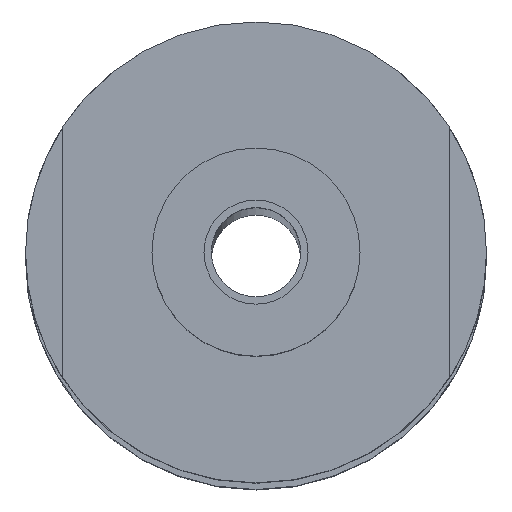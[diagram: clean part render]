
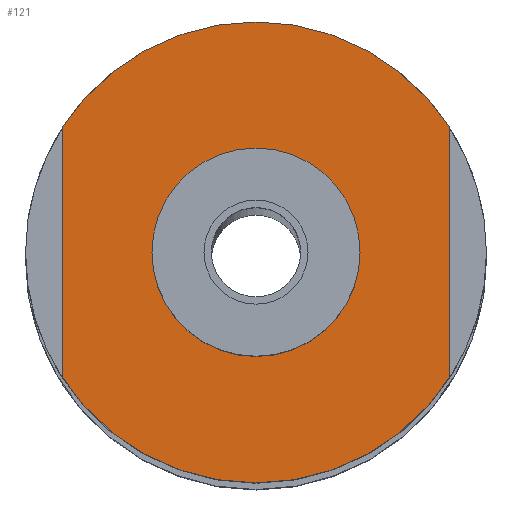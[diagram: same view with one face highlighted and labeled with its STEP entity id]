
A CAD part, top view. The second image highlights one B-rep face of the part: STEP entity #121.
In plain terms, the highlighted planar face has unit normal (0, 0, 1).
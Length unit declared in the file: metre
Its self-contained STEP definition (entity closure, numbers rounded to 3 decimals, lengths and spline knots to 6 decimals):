
#121=ADVANCED_FACE('37:1511',(#238,#239),#240,.T.);
#238=FACE_OUTER_BOUND('',#364,.T.);
#239=FACE_BOUND('',#365,.T.);
#240=PLANE('',#366);
#364=EDGE_LOOP('',(#596,#597,#598,#599,#600,#601));
#365=EDGE_LOOP('',(#602,#603));
#366=AXIS2_PLACEMENT_3D('',#604,#605,#606);
#596=ORIENTED_EDGE('',*,*,#761,.F.);
#597=ORIENTED_EDGE('',*,*,#760,.F.);
#598=ORIENTED_EDGE('',*,*,#756,.F.);
#599=ORIENTED_EDGE('',*,*,#688,.F.);
#600=ORIENTED_EDGE('',*,*,#687,.F.);
#601=ORIENTED_EDGE('',*,*,#751,.T.);
#602=ORIENTED_EDGE('',*,*,#749,.F.);
#603=ORIENTED_EDGE('',*,*,#693,.F.);
#604=CARTESIAN_POINT('',(0.0,0.0,2.635));
#605=DIRECTION('',(0.0,0.0,1.0));
#606=DIRECTION('',(1.0,0.0,0.0));
#687=EDGE_CURVE('37:1561',#812,#814,#815,.F.);
#688=EDGE_CURVE('37:1552',#814,#816,#817,.F.);
#693=EDGE_CURVE('',#822,#825,#826,.T.);
#749=EDGE_CURVE('37:1539',#825,#822,#907,.T.);
#751=EDGE_CURVE('37:3142',#812,#909,#910,.T.);
#756=EDGE_CURVE('37:2641',#816,#917,#918,.F.);
#760=EDGE_CURVE('37:1558',#917,#922,#923,.F.);
#761=EDGE_CURVE('37:1549',#922,#909,#924,.F.);
#812=VERTEX_POINT('',#1001);
#814=VERTEX_POINT('',#1004);
#815=CIRCLE('',#1005,0.0155);
#816=VERTEX_POINT('',#1006);
#817=CIRCLE('',#1007,0.0155);
#822=VERTEX_POINT('',#1013);
#825=VERTEX_POINT('',#1017);
#826=CIRCLE('',#1018,0.007);
#907=CIRCLE('',#1116,0.007);
#909=VERTEX_POINT('',#1118);
#910=LINE('',#1119,#1120);
#917=VERTEX_POINT('',#1130);
#918=LINE('',#1131,#1132);
#922=VERTEX_POINT('',#1137);
#923=CIRCLE('',#1138,0.0155);
#924=CIRCLE('',#1139,0.0155);
#1001=CARTESIAN_POINT('',(-0.013092,0.008536,2.635));
#1004=CARTESIAN_POINT('',(-0.000092,0.015595,2.635));
#1005=AXIS2_PLACEMENT_3D('',#1221,#1222,#1223);
#1006=CARTESIAN_POINT('',(0.012908,0.008536,2.635));
#1007=AXIS2_PLACEMENT_3D('',#1224,#1225,#1226);
#1013=CARTESIAN_POINT('',(0.006908,0.000095,2.635));
#1017=CARTESIAN_POINT('',(-0.007092,0.000095,2.635));
#1018=AXIS2_PLACEMENT_3D('',#1232,#1233,#1234);
#1116=AXIS2_PLACEMENT_3D('',#1318,#1319,#1320);
#1118=CARTESIAN_POINT('',(-0.013092,-0.008346,2.635));
#1119=CARTESIAN_POINT('',(-0.013092,0.000048,2.635));
#1120=VECTOR('',#1321,1.0);
#1130=CARTESIAN_POINT('',(0.012908,-0.008346,2.635));
#1131=CARTESIAN_POINT('',(0.012908,0.000048,2.635));
#1132=VECTOR('',#1325,1.0);
#1137=CARTESIAN_POINT('',(-0.000092,-0.015405,2.635));
#1138=AXIS2_PLACEMENT_3D('',#1330,#1331,#1332);
#1139=AXIS2_PLACEMENT_3D('',#1333,#1334,#1335);
#1221=CARTESIAN_POINT('',(-0.000092,0.000095,2.635));
#1222=DIRECTION('',(0.0,0.0,1.0));
#1223=DIRECTION('',(1.0,0.0,0.0));
#1224=CARTESIAN_POINT('',(-0.000092,0.000095,2.635));
#1225=DIRECTION('',(0.0,0.0,1.0));
#1226=DIRECTION('',(1.0,0.0,0.0));
#1232=CARTESIAN_POINT('',(-0.000092,0.000095,2.635));
#1233=DIRECTION('',(0.0,0.0,1.0));
#1234=DIRECTION('',(1.0,0.0,-0.0));
#1318=CARTESIAN_POINT('',(-0.000092,0.000095,2.635));
#1319=DIRECTION('',(0.0,0.0,1.0));
#1320=DIRECTION('',(1.0,0.0,-0.0));
#1321=DIRECTION('',(0.,-1.0,0.0));
#1325=DIRECTION('',(0.,1.0,0.0));
#1330=CARTESIAN_POINT('',(-0.000092,0.000095,2.635));
#1331=DIRECTION('',(0.0,0.0,1.0));
#1332=DIRECTION('',(1.0,0.0,0.0));
#1333=CARTESIAN_POINT('',(-0.000092,0.000095,2.635));
#1334=DIRECTION('',(0.0,0.0,1.0));
#1335=DIRECTION('',(1.0,0.0,0.0));
